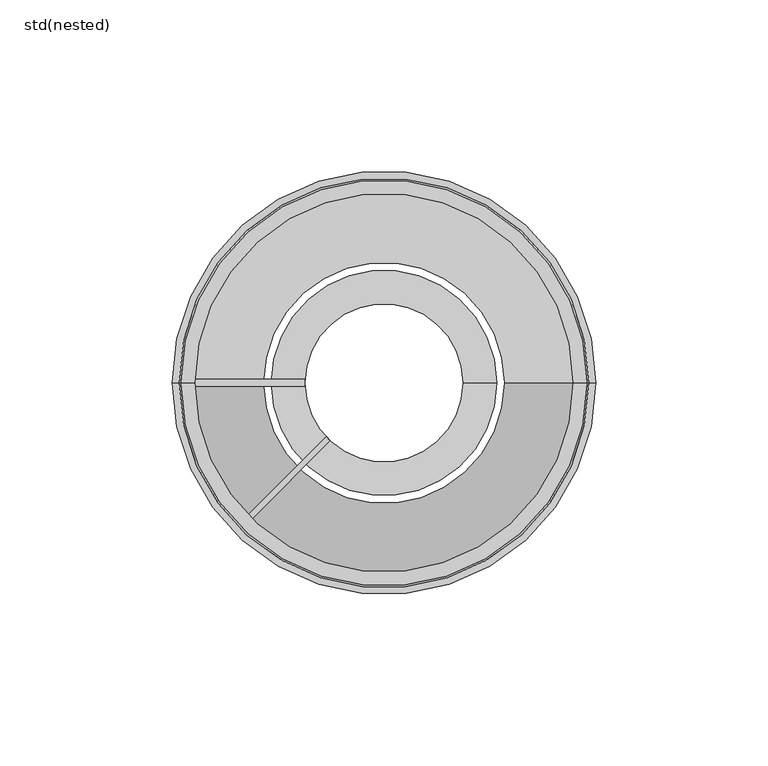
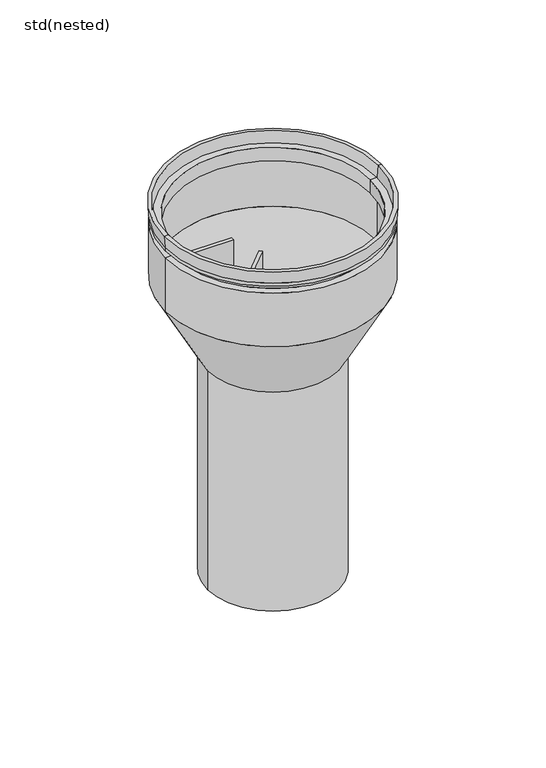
"""IFC4 building model written with IfcOpenShell, lengths in millimetres: sanitary terminal geometry, ZZZ_do not use_PF_ST_UN_balcony gully_ACO : std(nested)."""

from ifc_helpers import new_model, si_unit, frame, origin, place, context, project, spatial, polyline, circle_curve, source, transform, mapped, element, save
from ifc_brep_helpers import plane_surface, cylinder_surface, revolved_surface, advanced_brep


def std_nested_c674f1c7(model_context):
    return source(origin(), model_context, "Body", "AdvancedBrep", [
        advanced_brep(
        [(59.5005382, 0.0, 0.0), (-59.5005382, 0.0, 0.0), (-59.0, 0.0, -7.0), (59.0, 0.0, -7.0), (61.5056448, 0.0, 0.0), (-61.5056448, 0.0, 0.0), (61.0051065, 0.0, -7.0), (-61.0051065, 0.0, -7.0), (61.0051065, 0.0, -9.0), (-61.0051065, 0.0, -9.0), (57.0, 0.0, -9.0), (-57.0, 0.0, -9.0), (57.0, 0.0, -13.0), (-57.0, 0.0, -13.0), (61.0051065, 0.0, -13.0), (-61.0051065, 0.0, -13.0), (61.0051065, 0.0, -45.0), (-61.0051065, 0.0, -45.0), (37.0, 0.0, -89.0), (-37.0, 0.0, -89.0), (37.0, 0.0, -220.0), (-37.0, 0.0, -220.0), (35.0, 0.0, -220.0), (-35.0, 0.0, -220.0), (35.0, 0.0, -89.0), (-35.0, 0.0, -89.0), (59.0, 0.0, -45.0), (-59.0, 0.0, -45.0), (59.0, 0.0, -15.0), (-58.9914973, 1.0016193, -15.0), (-58.9914973, 1.0016193, -40.0), (-59.0, 0.0, -40.0), (-58.9914973, -1.0016193, -40.0), (-58.9914973, -1.0016193, -15.0), (-42.2811502, -41.1497793, -15.0), (-42.2811502, -41.1497793, -40.0), (-41.1497793, -42.2811502, -40.0), (-41.1497793, -42.2811502, -15.0), (55.0, 0.0, -15.0), (-54.9908789, 1.0016193, -15.0), (-54.9908789, -1.0016193, -15.0), (-39.4524441, -38.3210732, -15.0), (-38.3210732, -39.4524441, -15.0), (55.0, 0.0, -7.0), (-55.0, 0.0, -7.0), (-55.0, 0.0, -15.0), (-23.0, 1.0016193, -40.0), (-23.0, -1.0016193, -40.0), (-16.8291414, -15.6977705, -40.0), (-15.6977705, -16.8291414, -40.0), (-23.0, -1.0016193, -15.0), (-23.0, 1.0016193, -15.0), (-15.6977705, -16.8291414, -15.0), (-16.8291414, -15.6977705, -15.0)],
        [
            (0, 1, circle_curve(frame((0.0, 0.0, 0.0), z_axis=(0.0, 0.0, 1.0), x_axis=(-1.0, 0.0, 0.0)), 59.5005382)),
            (1, 2),
            (2, 3, circle_curve(frame((0.0, 0.0, -7.0), z_axis=(0.0, 0.0, -1.0), x_axis=(-1.0, 0.0, 0.0)), 59.0)),
            (3, 0),
            (1, 0, circle_curve(frame((0.0, 0.0, 0.0), z_axis=(0.0, 0.0, 1.0), x_axis=(-1.0, 0.0, 0.0)), 59.5005382)),
            (3, 2, circle_curve(frame((0.0, 0.0, -7.0), z_axis=(0.0, 0.0, -1.0), x_axis=(-1.0, 0.0, 0.0)), 59.0)),
            (0, 4),
            (4, 5, circle_curve(frame((0.0, 0.0, 0.0), z_axis=(0.0, 0.0, 1.0), x_axis=(-1.0, 0.0, 0.0)), 61.5056448)),
            (5, 1),
            (5, 4, circle_curve(frame((0.0, 0.0, 0.0), z_axis=(0.0, 0.0, 1.0), x_axis=(-1.0, 0.0, 0.0)), 61.5056448)),
            (4, 6),
            (6, 7, circle_curve(frame((0.0, 0.0, -7.0), z_axis=(0.0, 0.0, 1.0), x_axis=(-1.0, 0.0, 0.0)), 61.0051065)),
            (7, 5),
            (7, 6, circle_curve(frame((0.0, 0.0, -7.0), z_axis=(0.0, 0.0, 1.0), x_axis=(-1.0, 0.0, 0.0)), 61.0051065)),
            (6, 8),
            (8, 9, circle_curve(frame((0.0, 0.0, -9.0), z_axis=(0.0, 0.0, 1.0), x_axis=(-1.0, 0.0, 0.0)), 61.0051065)),
            (9, 7),
            (9, 8, circle_curve(frame((0.0, 0.0, -9.0), z_axis=(0.0, 0.0, 1.0), x_axis=(-1.0, 0.0, 0.0)), 61.0051065)),
            (8, 10),
            (10, 11, circle_curve(frame((0.0, 0.0, -9.0), z_axis=(0.0, 0.0, 1.0), x_axis=(-1.0, 0.0, 0.0)), 57.0)),
            (11, 9),
            (11, 10, circle_curve(frame((0.0, 0.0, -9.0), z_axis=(0.0, 0.0, 1.0), x_axis=(-1.0, 0.0, 0.0)), 57.0)),
            (10, 12),
            (12, 13, circle_curve(frame((0.0, 0.0, -13.0), z_axis=(0.0, 0.0, 1.0), x_axis=(-1.0, 0.0, 0.0)), 57.0)),
            (13, 11),
            (13, 12, circle_curve(frame((0.0, 0.0, -13.0), z_axis=(0.0, 0.0, 1.0), x_axis=(-1.0, 0.0, 0.0)), 57.0)),
            (12, 14),
            (14, 15, circle_curve(frame((0.0, 0.0, -13.0), z_axis=(0.0, 0.0, 1.0), x_axis=(-1.0, 0.0, 0.0)), 61.0051065)),
            (15, 13),
            (15, 14, circle_curve(frame((0.0, 0.0, -13.0), z_axis=(0.0, 0.0, 1.0), x_axis=(-1.0, 0.0, 0.0)), 61.0051065)),
            (14, 16),
            (16, 17, circle_curve(frame((0.0, 0.0, -45.0), z_axis=(0.0, 0.0, 1.0), x_axis=(-1.0, 0.0, 0.0)), 61.0051065)),
            (17, 15),
            (17, 16, circle_curve(frame((0.0, 0.0, -45.0), z_axis=(0.0, 0.0, 1.0), x_axis=(-1.0, 0.0, 0.0)), 61.0051065)),
            (16, 18),
            (18, 19, circle_curve(frame((0.0, 0.0, -89.0), z_axis=(0.0, 0.0, 1.0), x_axis=(-1.0, 0.0, 0.0)), 37.0)),
            (19, 17),
            (19, 18, circle_curve(frame((0.0, 0.0, -89.0), z_axis=(0.0, 0.0, 1.0), x_axis=(-1.0, 0.0, 0.0)), 37.0)),
            (18, 20),
            (20, 21, circle_curve(frame((0.0, 0.0, -220.0), z_axis=(0.0, 0.0, 1.0), x_axis=(-1.0, 0.0, 0.0)), 37.0)),
            (21, 19),
            (21, 20, circle_curve(frame((0.0, 0.0, -220.0), z_axis=(0.0, 0.0, 1.0), x_axis=(-1.0, 0.0, 0.0)), 37.0)),
            (20, 22),
            (22, 23, circle_curve(frame((0.0, 0.0, -220.0), z_axis=(0.0, 0.0, 1.0), x_axis=(-1.0, 0.0, 0.0)), 35.0)),
            (23, 21),
            (23, 22, circle_curve(frame((0.0, 0.0, -220.0), z_axis=(0.0, 0.0, 1.0), x_axis=(-1.0, 0.0, 0.0)), 35.0)),
            (22, 24),
            (24, 25, circle_curve(frame((0.0, 0.0, -89.0), z_axis=(0.0, 0.0, 1.0), x_axis=(-1.0, 0.0, 0.0)), 35.0)),
            (25, 23),
            (25, 24, circle_curve(frame((0.0, 0.0, -89.0), z_axis=(0.0, 0.0, 1.0), x_axis=(-1.0, 0.0, 0.0)), 35.0)),
            (24, 26),
            (26, 27, circle_curve(frame((0.0, 0.0, -45.0), z_axis=(0.0, 0.0, 1.0), x_axis=(-1.0, 0.0, 0.0)), 59.0)),
            (27, 25),
            (27, 26, circle_curve(frame((0.0, 0.0, -45.0), z_axis=(0.0, 0.0, 1.0), x_axis=(-1.0, 0.0, 0.0)), 59.0)),
            (26, 28),
            (28, 29, circle_curve(frame((0.0, 0.0, -15.0), z_axis=(0.0, 0.0, 1.0), x_axis=(-1.0, 0.0, 0.0)), 59.0)),
            (29, 30),
            (30, 31, circle_curve(frame((0.0, 0.0, -40.0), z_axis=(0.0, 0.0, 1.0), x_axis=(-1.0, 0.0, 0.0)), 59.0)),
            (31, 27),
            (31, 32, circle_curve(frame((0.0, 0.0, -40.0), z_axis=(0.0, 0.0, 1.0), x_axis=(-1.0, 0.0, 0.0)), 59.0)),
            (32, 33),
            (33, 34, circle_curve(frame((0.0, 0.0, -15.0), z_axis=(0.0, 0.0, 1.0), x_axis=(-1.0, 0.0, 0.0)), 59.0)),
            (34, 35),
            (35, 36, circle_curve(frame((0.0, 0.0, -40.0), z_axis=(0.0, 0.0, 1.0), x_axis=(-1.0, 0.0, 0.0)), 59.0)),
            (36, 37),
            (37, 28, circle_curve(frame((0.0, 0.0, -15.0), z_axis=(0.0, 0.0, 1.0), x_axis=(-1.0, 0.0, 0.0)), 59.0)),
            (28, 38),
            (38, 39, circle_curve(frame((0.0, 0.0, -15.0), z_axis=(0.0, 0.0, 1.0), x_axis=(-1.0, 0.0, 0.0)), 55.0)),
            (39, 29),
            (33, 40),
            (40, 41, circle_curve(frame((0.0, 0.0, -15.0), z_axis=(0.0, 0.0, 1.0), x_axis=(-1.0, 0.0, 0.0)), 55.0)),
            (41, 34),
            (37, 42),
            (42, 38, circle_curve(frame((0.0, 0.0, -15.0), z_axis=(0.0, 0.0, 1.0), x_axis=(-1.0, 0.0, 0.0)), 55.0)),
            (43, 44, circle_curve(frame((0.0, 0.0, -7.0), z_axis=(0.0, 0.0, 1.0), x_axis=(-1.0, 0.0, 0.0)), 55.0)),
            (44, 45),
            (45, 39, circle_curve(frame((0.0, 0.0, -15.0), z_axis=(0.0, 0.0, -1.0), x_axis=(-1.0, 0.0, 0.0)), 55.0)),
            (38, 43),
            (44, 43, circle_curve(frame((0.0, 0.0, -7.0), z_axis=(0.0, 0.0, 1.0), x_axis=(-1.0, 0.0, 0.0)), 55.0)),
            (42, 41, circle_curve(frame((0.0, 0.0, -15.0), z_axis=(0.0, 0.0, -1.0), x_axis=(-1.0, 0.0, 0.0)), 55.0)),
            (40, 45, circle_curve(frame((0.0, 0.0, -15.0), z_axis=(0.0, 0.0, -1.0), x_axis=(-1.0, 0.0, 0.0)), 55.0)),
            (2, 44),
            (43, 3),
            (46, 47),
            (47, 32),
            (30, 46),
            (48, 49),
            (49, 36),
            (35, 48),
            (50, 51),
            (51, 39),
            (40, 50),
            (52, 53),
            (53, 41),
            (42, 52),
            (51, 46),
            (47, 50),
            (53, 48),
            (49, 52),
        ],
        [
            revolved_surface(polyline([(-59.0, 0.0, -7.0), (-59.5005382, 0.0, 0.0)]), (0.0, 0.0, 0.0), (0.0, 0.0, -1.0)),
            plane_surface(frame((0.0, 0.0, 0.0), z_axis=(0.0, 0.0, 1.0), x_axis=(-1.0, 0.0, 0.0))),
            revolved_surface(polyline([(-61.5056448, 0.0, 0.0), (-61.0051065, 0.0, -7.0)]), (0.0, 0.0, 0.0), (0.0, 0.0, -1.0)),
            cylinder_surface(frame((0.0, 0.0, 0.0), z_axis=(0.0, 0.0, -1.0), x_axis=(-1.0, 0.0, 0.0)), 61.0051065),
            plane_surface(frame((0.0, 0.0, -9.0), z_axis=(0.0, 0.0, -1.0), x_axis=(-1.0, 0.0, 0.0))),
            cylinder_surface(frame((0.0, 0.0, 0.0), z_axis=(0.0, 0.0, -1.0), x_axis=(-1.0, 0.0, 0.0)), 57.0),
            plane_surface(frame((0.0, 0.0, -13.0), z_axis=(0.0, 0.0, 1.0), x_axis=(-1.0, 0.0, 0.0))),
            revolved_surface(polyline([(-61.0051065, 0.0, -45.0), (-37.0, 0.0, -89.0)]), (0.0, 0.0, 0.0), (0.0, 0.0, -1.0)),
            cylinder_surface(frame((0.0, 0.0, 0.0), z_axis=(0.0, 0.0, -1.0), x_axis=(-1.0, 0.0, 0.0)), 37.0),
            plane_surface(frame((0.0, 0.0, -220.0), z_axis=(0.0, 0.0, -1.0), x_axis=(-1.0, 0.0, 0.0))),
            revolved_surface(polyline([(-35.0, 0.0, -220.0), (-35.0, 0.0, -89.0)]), (0.0, 0.0, 0.0), (0.0, 0.0, -1.0)),
            revolved_surface(polyline([(-35.0, 0.0, -89.0), (-59.0, 0.0, -45.0)]), (0.0, 0.0, 0.0), (0.0, 0.0, -1.0)),
            revolved_surface(polyline([(-59.0, 0.0, -45.0), (-59.0, 0.0, -15.0)]), (0.0, 0.0, 0.0), (0.0, 0.0, -1.0)),
            plane_surface(frame((0.0, 0.0, -15.0), z_axis=(0.0, 0.0, -1.0), x_axis=(-1.0, 0.0, 0.0))),
            revolved_surface(polyline([(-55.0, 0.0, -15.0), (-55.0, 0.0, -7.0)]), (0.0, 0.0, 0.0), (0.0, 0.0, -1.0)),
            plane_surface(frame((0.0, 0.0, -7.0), z_axis=(0.0, 0.0, 1.0), x_axis=(-1.0, 0.0, 0.0))),
            plane_surface(frame((-59.4942457, 1.0016193, -40.0), z_axis=(0.0, 0.0, -1.0), x_axis=(1.0, 0.0, 0.0))),
            plane_surface(frame((-59.4942457, 1.0016193, -15.0), z_axis=(0.0, 0.0, 1.0), x_axis=(-1.0, 0.0, 0.0))),
            plane_surface(frame((-23.0, 1.0016193, -15.0), z_axis=(0.0, 1.0, 0.0), x_axis=(0.0, 0.0, -1.0))),
            plane_surface(frame((-60.0, -1.0016193, -15.0), z_axis=(0.0, -1.0, 0.0), x_axis=(0.0, 0.0, -1.0))),
            plane_surface(frame((-23.0, -1.0016193, -15.0), z_axis=(1.0, 0.0, 0.0), x_axis=(0.0, 0.0, -1.0))),
            plane_surface(frame((-16.8291414, -15.6977705, -15.0), z_axis=(-0.7071067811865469, 0.7071067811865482, 0.0), x_axis=(0.0, 0.0, -1.0))),
            plane_surface(frame((-41.8607214, -42.9920923, -15.0), z_axis=(0.7071067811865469, -0.7071067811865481, 0.0), x_axis=(0.0, 0.0, -1.0))),
            plane_surface(frame((-15.6977705, -16.8291414, -15.0), z_axis=(0.7071067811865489, 0.7071067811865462, 0.0), x_axis=(0.0, 0.0, -1.0))),
        ],
        [
            (0, [[1, 2, 3, 4]]),
            (0, [[-2, 5, -4, 6]]),
            (1, [[-1, 7, 8, 9]]),
            (1, [[-5, -9, 10, -7]]),
            (2, [[-8, 11, 12, 13]]),
            (2, [[-10, -13, 14, -11]]),
            (3, [[-12, 15, 16, 17]]),
            (3, [[-14, -17, 18, -15]]),
            (4, [[-16, 19, 20, 21]]),
            (4, [[-18, -21, 22, -19]]),
            (5, [[-20, 23, 24, 25]]),
            (5, [[-22, -25, 26, -23]]),
            (6, [[-24, 27, 28, 29]]),
            (6, [[-26, -29, 30, -27]]),
            (3, [[-28, 31, 32, 33]]),
            (3, [[-30, -33, 34, -31]]),
            (7, [[-32, 35, 36, 37]]),
            (7, [[-34, -37, 38, -35]]),
            (8, [[-36, 39, 40, 41]]),
            (8, [[-38, -41, 42, -39]]),
            (9, [[-40, 43, 44, 45]]),
            (9, [[-42, -45, 46, -43]]),
            (10, [[-44, 47, 48, 49]]),
            (10, [[-46, -49, 50, -47]]),
            (11, [[-48, 51, 52, 53]]),
            (11, [[-50, -53, 54, -51]]),
            (12, [[-52, 55, 56, 57, 58, 59]]),
            (12, [[-54, -59, 60, 61, 62, 63, 64, 65, 66, -55]]),
            (13, [[67, 68, 69, -56]]),
            (13, [[-62, 70, 71, 72]]),
            (13, [[-67, -66, 73, 74]]),
            (14, [[75, 76, 77, -68, 78]]),
            (14, [[-76, 79, -78, -74, 80, -71, 81]]),
            (15, [[-3, 82, -75, 83]]),
            (15, [[-6, -83, -79, -82]]),
            (16, [[84, 85, -60, -58, 86]]),
            (16, [[87, 88, -64, 89]]),
            (17, [[90, 91, -77, -81, 92]]),
            (17, [[93, 94, -80, 95]]),
            (18, [[96, -86, -57, -69, -91]]),
            (19, [[97, -92, -70, -61, -85]]),
            (20, [[-84, -96, -90, -97]]),
            (21, [[98, -89, -63, -72, -94]]),
            (22, [[99, -95, -73, -65, -88]]),
            (23, [[-87, -98, -93, -99]]),
        ],
    ),
        advanced_brep(
        [(25.0, 0.0, -95.0), (-25.0, 0.0, -95.0), (-32.7080689, 0.0, -95.0), (32.7080689, 0.0, -95.0), (25.0, 0.0, -218.0), (-25.0, 0.0, -218.0), (23.0, 0.0, -218.0), (-23.0, 0.0, -218.0), (23.0, 0.0, -93.0), (-23.0, 0.0, -93.0), (32.7080689, 0.0, -93.0), (-32.7080689, 0.0, -93.0)],
        [
            (0, 1, circle_curve(frame((0.0, 0.0, -95.0), z_axis=(0.0, 0.0, 1.0), x_axis=(-1.0, 0.0, 0.0)), 25.0)),
            (1, 2),
            (2, 3, circle_curve(frame((0.0, 0.0, -95.0), z_axis=(0.0, 0.0, -1.0), x_axis=(-1.0, 0.0, 0.0)), 32.7080689)),
            (3, 0),
            (1, 0, circle_curve(frame((0.0, 0.0, -95.0), z_axis=(0.0, 0.0, 1.0), x_axis=(-1.0, 0.0, 0.0)), 25.0)),
            (3, 2, circle_curve(frame((0.0, 0.0, -95.0), z_axis=(0.0, 0.0, -1.0), x_axis=(-1.0, 0.0, 0.0)), 32.7080689)),
            (0, 4),
            (4, 5, circle_curve(frame((0.0, 0.0, -218.0), z_axis=(0.0, 0.0, 1.0), x_axis=(-1.0, 0.0, 0.0)), 25.0)),
            (5, 1),
            (5, 4, circle_curve(frame((0.0, 0.0, -218.0), z_axis=(0.0, 0.0, 1.0), x_axis=(-1.0, 0.0, 0.0)), 25.0)),
            (4, 6),
            (6, 7, circle_curve(frame((0.0, 0.0, -218.0), z_axis=(0.0, 0.0, 1.0), x_axis=(-1.0, 0.0, 0.0)), 23.0)),
            (7, 5),
            (7, 6, circle_curve(frame((0.0, 0.0, -218.0), z_axis=(0.0, 0.0, 1.0), x_axis=(-1.0, 0.0, 0.0)), 23.0)),
            (6, 8),
            (8, 9, circle_curve(frame((0.0, 0.0, -93.0), z_axis=(0.0, 0.0, 1.0), x_axis=(-1.0, 0.0, 0.0)), 23.0)),
            (9, 7),
            (9, 8, circle_curve(frame((0.0, 0.0, -93.0), z_axis=(0.0, 0.0, 1.0), x_axis=(-1.0, 0.0, 0.0)), 23.0)),
            (8, 10),
            (10, 11, circle_curve(frame((0.0, 0.0, -93.0), z_axis=(0.0, 0.0, 1.0), x_axis=(-1.0, 0.0, 0.0)), 32.7080689)),
            (11, 9),
            (11, 10, circle_curve(frame((0.0, 0.0, -93.0), z_axis=(0.0, 0.0, 1.0), x_axis=(-1.0, 0.0, 0.0)), 32.7080689)),
            (2, 11),
            (10, 3),
        ],
        [
            plane_surface(frame((0.0, 0.0, -95.0), z_axis=(0.0, 0.0, -1.0), x_axis=(-1.0, 0.0, 0.0))),
            cylinder_surface(frame((0.0, 0.0, 0.0), z_axis=(0.0, 0.0, -1.0), x_axis=(-1.0, 0.0, 0.0)), 25.0),
            plane_surface(frame((0.0, 0.0, -218.0), z_axis=(0.0, 0.0, -1.0), x_axis=(-1.0, 0.0, 0.0))),
            revolved_surface(polyline([(-23.0, 0.0, -218.0), (-23.0, 0.0, -93.0)]), (0.0, 0.0, 0.0), (0.0, 0.0, -1.0)),
            plane_surface(frame((0.0, 0.0, -93.0), z_axis=(0.0, 0.0, 1.0), x_axis=(-1.0, 0.0, 0.0))),
            cylinder_surface(frame((0.0, 0.0, 0.0), z_axis=(0.0, 0.0, -1.0), x_axis=(-1.0, 0.0, 0.0)), 32.7080689),
        ],
        [
            (0, [[1, 2, 3, 4]]),
            (0, [[-2, 5, -4, 6]]),
            (1, [[-1, 7, 8, 9]]),
            (1, [[-5, -9, 10, -7]]),
            (2, [[-8, 11, 12, 13]]),
            (2, [[-10, -13, 14, -11]]),
            (3, [[-12, 15, 16, 17]]),
            (3, [[-14, -17, 18, -15]]),
            (4, [[-16, 19, 20, 21]]),
            (4, [[-18, -21, 22, -19]]),
            (5, [[-3, 23, -20, 24]]),
            (5, [[-6, -24, -22, -23]]),
        ],
    ),
    ])


if __name__ == "__main__":
    model = new_model("IFC4")
    model_context = context("Model", 3, world=origin())
    ifc_project = project(units=[si_unit("LENGTHUNIT", "METRE", prefix="MILLI")], contexts=[model_context])
    site = spatial("IfcSite", under=ifc_project)
    building = spatial("IfcBuilding", under=site)
    placement = place(None, origin())
    std_nested_shape = std_nested_c674f1c7(model_context)
    element("IfcSanitaryTerminal", 1, ObjectType="ZZZ_do not use_PF_ST_UN_balcony gully_ACO : std(nested)", at=placement, inside=building, context=model_context, shape_type="MappedRepresentation", body=[
        mapped(std_nested_shape, transform((0.0, 0.0, 0.0), x_axis=(1.0, 0.0, 0.0), y_axis=(0.0, 1.0, 0.0), z_axis=(0.0, 0.0, 1.0))),
    ])
    save(model, "model.ifc")
